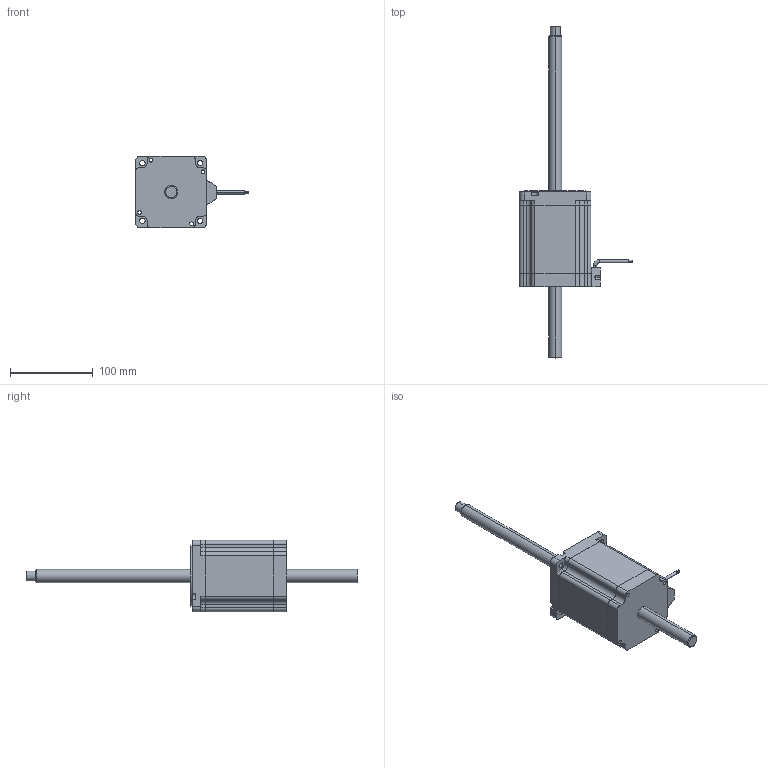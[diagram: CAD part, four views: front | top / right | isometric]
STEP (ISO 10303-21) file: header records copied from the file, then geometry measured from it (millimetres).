
FILE_DESCRIPTION (( 'STEP AP203' ), '1' );
FILE_NAME ('86N2114-3.175-6-4-400-003.STEP', '2020-09-16T03:08:47', ( '' ), ( '' ), 'SwSTEP 2.0', 'SolidWorks 2017', '' );
FILE_SCHEMA (( 'CONFIG_CONTROL_DESIGN' ));
Length unit declared in the file: millimetre
Products named in the file (1): 86N2114-3.175-6-4-400-003
Bounding box: 136 x 400 x 86 mm (x, y, z)
Volume: 819965 mm3; surface area: 80213.3 mm2
Topology: 2 solids, 2 shells, 222 faces, 587 edges, 383 vertices
Faces by surface type: cylinder 112, plane 89, cone 11, torus 10
Entity records: 7093 total; most frequent: DIRECTION 1284, CARTESIAN_POINT 1205, ORIENTED_EDGE 1174, EDGE_CURVE 587, AXIS2_PLACEMENT_3D 478, VERTEX_POINT 383, VECTOR 328, LINE 328
